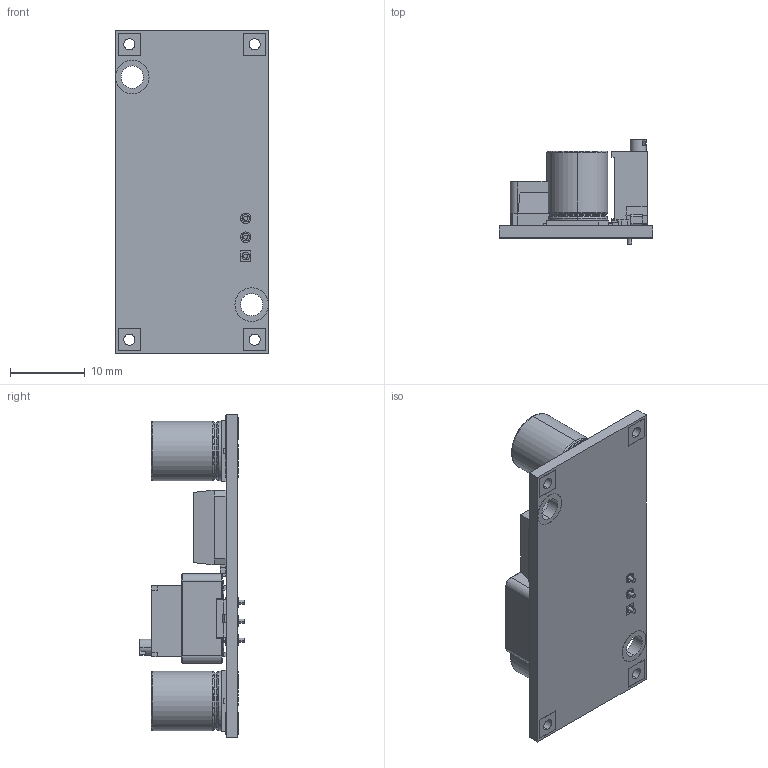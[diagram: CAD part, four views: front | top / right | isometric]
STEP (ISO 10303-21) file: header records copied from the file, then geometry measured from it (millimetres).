
FILE_DESCRIPTION (( 'STEP AP214' ), '1' );
FILE_NAME ('CN6009.STEP', '2026-07-26T16:16:29', ( 'Sk' ), ( '' ), 'SwSTEP 2.0', 'SolidWorks 2012', '' );
FILE_SCHEMA (( 'AUTOMOTIVE_DESIGN' ));
Length unit declared in the file: millimetre
Products named in the file (13): Diode_DO214AC(SMA)^CN6009; CAP_SMD_AL_08.0x10.0^CN6009; TO-263-5^CN6009; 003^CDRH125_CN6009; 002^CDRH125_CN6009; RES_3296W^CN6009; 005^CDRH125_CN6009; CN6009; CAP_SMD_0603_H0.50^CN6009; CDRH125^CN6009; Board^CN6009; RES_SMD_0603^CN6009; 001^CDRH125_CN6009
Assembly tree (15 placements, depth 3):
  CN6009
    Board^CN6009
    RES_3296W^CN6009
    TO-263-5^CN6009
    CAP_SMD_AL_08.0x10.0^CN6009  x2
    RES_SMD_0603^CN6009
    CAP_SMD_0603_H0.50^CN6009  x2
    CDRH125^CN6009
      001^CDRH125_CN6009
      002^CDRH125_CN6009
      005^CDRH125_CN6009  x2
      003^CDRH125_CN6009
    Diode_DO214AC(SMA)^CN6009
Bounding box: 20.6 x 13.97 x 43.4 mm (x, y, z)
Volume: 3830.7 mm3; surface area: 5207.5 mm2
Topology: 27 solids, 27 shells, 1451 faces, 3707 edges, 2359 vertices
Faces by surface type: plane 745, bspline 329, cylinder 250, cone 54, torus 44, sphere 29
Entity records: 56763 total; most frequent: CARTESIAN_POINT 22663, ORIENTED_EDGE 6264, DIRECTION 4811, EDGE_CURVE 3132, VERTEX_POINT 2015, VECTOR 1979, LINE 1979, AXIS2_PLACEMENT_3D 1416
